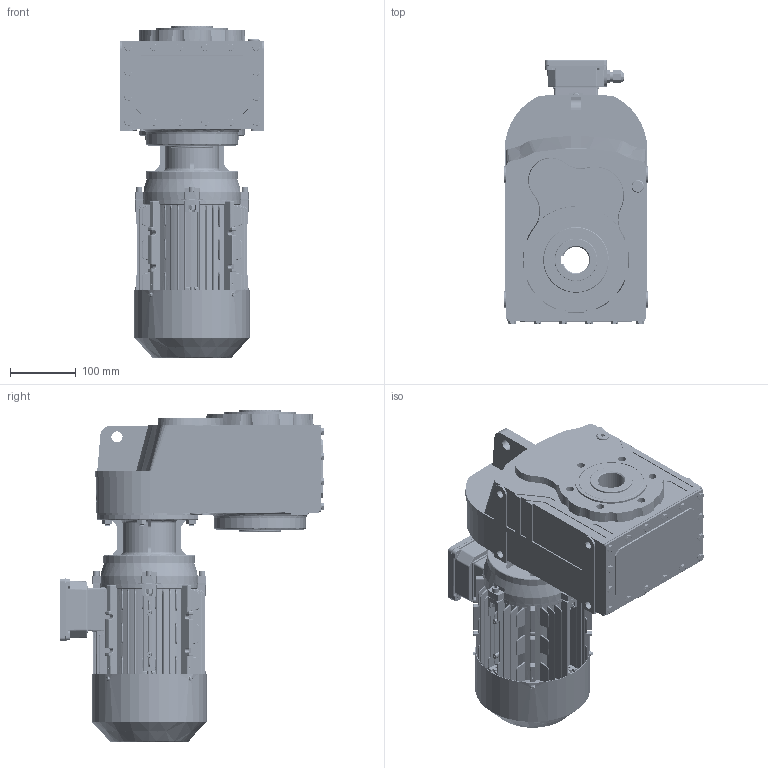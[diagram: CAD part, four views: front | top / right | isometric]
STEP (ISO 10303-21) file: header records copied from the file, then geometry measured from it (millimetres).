
FILE_DESCRIPTION (( 'STEP AP203' ), '1' );
FILE_NAME ('DV_373_0_MX3-90S.STEP', '2018-11-15T11:32:16', ( '' ), ( '' ), 'SwSTEP 2.0', 'SolidWorks 2012', '' );
FILE_SCHEMA (( 'CONFIG_CONTROL_DESIGN' ));
Products named in the file (28): DV_373_0_MX3-90S; hexagon nuts grade c gb_GB_FASTENER_NUT_SNC1 M6-N; MX3-90S_B14; hexagon socket head cap screws gb_GB_FASTENER_SCREWS_HSHCS M6X30-N; IE3 90S flange B14; IE3 90S  oil seal; circlips for shaft--type b gb_GB_CONNECTING_PIECE_RINGS_CSB 20; IE3 90L cable glandsM16; IE3 90S flange; cross recessed pan head screws gb_GB_CROSS_SCREWS_TYPE1 M5X10-10  H type-N; cross recessed pan head screws gb_GB_CROSS_SCREWS_TYPE1 M5X20-20  H type-N; hexagon head bolts-full thread gb_GB_FASTENER_BOLT_STBAB A M4X16-N; IE3 90S connection board; hexagon flange head tapping screws gb_GB_SQUARE_AND_HEXAGON_TYPE137 ST3.5X9.5 F-N; cross recessed pan head tapping screws gb_GB_CROSS_SCREWS_TYPE128 ST4.2X9.5 H C-N; hex nuts, style 1-grades ab gb_GB_FASTENER_NUT_SNAB1 M6-N; spring lock washers--normal type gb_GB_FASTENER_WASHER_SW 6; IE3 90S terminal box; IE3 90S terminal box cover; plain parallel keys_GB_CONNECTING_PIECE_KEYS_CSK 8X40; deep groove ball bearings gb_Rolling bearings 6205 GB 276-94; IE3 90S fan; IE3 90S rotor; IE3 90S fan cover; D373_Varsayìlan_1; IE3 90S casing; ML57A_Varsayìlan_1; 2390B14_Varsayìlan
Assembly tree (64 placements, depth 3):
  DV_373_0_MX3-90S
    D373_Varsayìlan_1
    2390B14_Varsayìlan
    ML57A_Varsayìlan_1
    MX3-90S_B14
      IE3 90S casing
      IE3 90S rotor
      deep groove ball bearings gb_Rolling bearings 6205 GB 276-94  x2
      IE3 90S fan
      IE3 90S fan cover
      plain parallel keys_GB_CONNECTING_PIECE_KEYS_CSK 8X40
      IE3 90S terminal box
      IE3 90S terminal box cover
      spring lock washers--normal type gb_GB_FASTENER_WASHER_SW 6  x8
      hex nuts, style 1-grades ab gb_GB_FASTENER_NUT_SNAB1 M6-N  x5
      cross recessed pan head tapping screws gb_GB_CROSS_SCREWS_TYPE128 ST4.2X9.5 H C-N  x4
      hexagon flange head tapping screws gb_GB_SQUARE_AND_HEXAGON_TYPE137 ST3.5X9.5 F-N  x4
      IE3 90S connection board
      hexagon head bolts-full thread gb_GB_FASTENER_BOLT_STBAB A M4X16-N  x6
      cross recessed pan head screws gb_GB_CROSS_SCREWS_TYPE1 M5X20-20  H type-N  x2
      cross recessed pan head screws gb_GB_CROSS_SCREWS_TYPE1 M5X10-10  H type-N  x4
      IE3 90L cable glandsM16  x2
      circlips for shaft--type b gb_GB_CONNECTING_PIECE_RINGS_CSB 20
      IE3 90S  oil seal
      IE3 90S flange
      hexagon socket head cap screws gb_GB_FASTENER_SCREWS_HSHCS M6X30-N  x8
      IE3 90S flange B14
      hexagon nuts grade c gb_GB_FASTENER_NUT_SNC1 M6-N  x3
Bounding box: 219 x 401.5 x 505.5 mm (x, y, z)
Volume: 11312303.6 mm3; surface area: 1329489.3 mm2
Topology: 63 solids, 63 shells, 6122 faces, 15760 edges, 9798 vertices
Faces by surface type: plane 2341, cylinder 1726, bspline 1330, cone 600, sphere 81, torus 44
Entity records: 211882 total; most frequent: CARTESIAN_POINT 90369, ORIENTED_EDGE 26818, DIRECTION 21242, EDGE_CURVE 13409, VERTEX_POINT 8397, AXIS2_PLACEMENT_3D 7641, LINE 5960, VECTOR 5960
